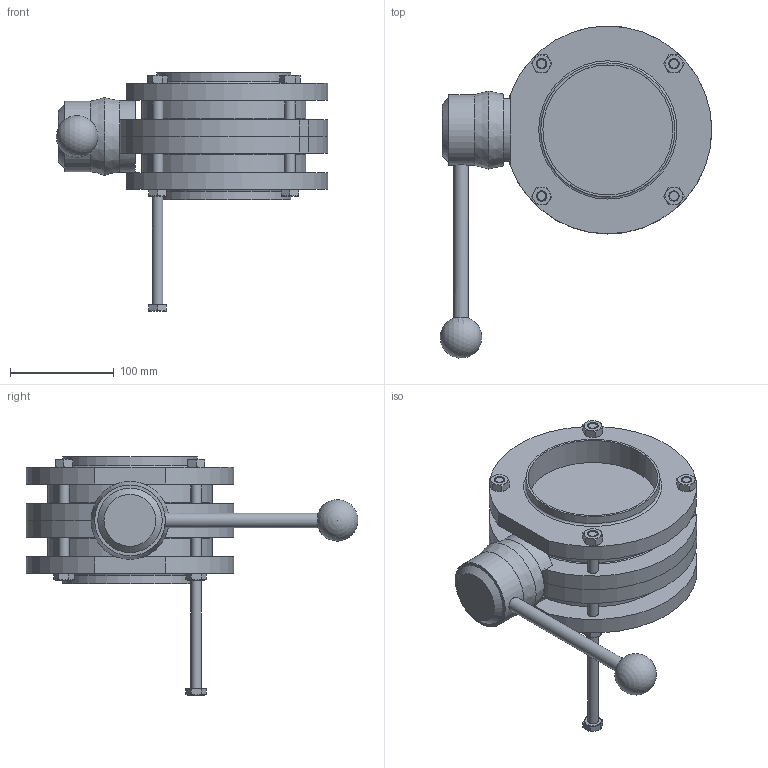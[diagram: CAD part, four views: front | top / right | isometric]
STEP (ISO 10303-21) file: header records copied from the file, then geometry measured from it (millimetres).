
FILE_DESCRIPTION(/* description */ ('VVFEX VALV.FARF.ATEX DN125(129X2) WAF4 316 EPDM LEVA 5POS.'),/* implementation_level */ '2;1');
FILE_NAME(/* name */ 'C:\_DED_PWS\MARZ-M\DB\B\EBA\BEBAC6125BEAI-00^SAGOMA.step',/* time_stamp */ '2018-11-29T17:18:04+01:00',/* author */ (''),/* organization */ (''),/* preprocessor_version */ 'ST-DEVELOPER v17',/* originating_system */ 'Autodesk Inventor 2018',/* authorisation */ '');
FILE_SCHEMA (('CONFIG_CONTROL_DESIGN'));
Length unit declared in the file: millimetre
Products named in the file (6): BEBAC6125BEAI; MEZZO-COR-DN125-WAFER-4; FLANGIA-DN129x2-WAFER-4; UNI 5588 - M10; MANIGLIA-DN125-150; UNI 5738 - M10 x 1,25 x 110
Assembly tree (14 placements, depth 2):
  BEBAC6125BEAI
    FLANGIA-DN129x2-WAFER-4  x2
    MEZZO-COR-DN125-WAFER-4  x2
    UNI 5738 - M10 x 1,25 x 110  x5
    UNI 5588 - M10  x4
    MANIGLIA-DN125-150
Bounding box: 261.2 x 319.34 x 229 mm (x, y, z)
Volume: 2699300.5 mm3; surface area: 352763.8 mm2
Topology: 14 solids, 14 shells, 255 faces, 588 edges, 375 vertices
Faces by surface type: plane 111, cone 94, cylinder 45, torus 4, sphere 1
Full cylindrical faces by diameter (mm): 8.376 x4, 10 x5, 10.5 x12, 14 x1, 16.2 x5, 68 x1, 69 x1, 125 x2, 129 x2, 158 x2
Entity records: 2770 total; most frequent: CARTESIAN_POINT 541, DIRECTION 458, ORIENTED_EDGE 398, EDGE_CURVE 199, AXIS2_PLACEMENT_3D 195, VERTEX_POINT 132, EDGE_LOOP 105, CIRCLE 92
